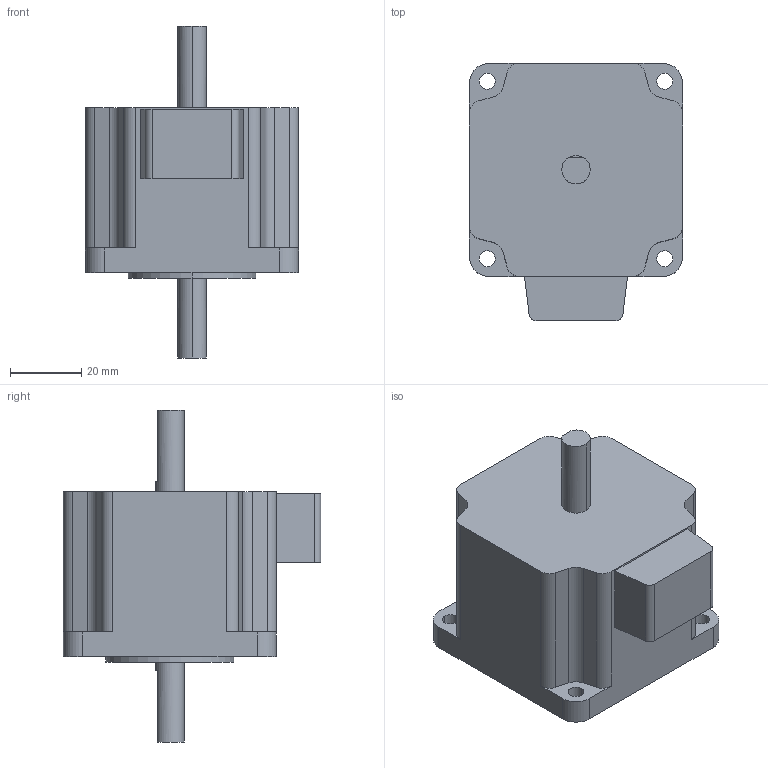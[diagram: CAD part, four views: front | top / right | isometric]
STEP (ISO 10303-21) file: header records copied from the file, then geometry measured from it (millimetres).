
FILE_DESCRIPTION (( 'STEP AP203' ), '1' );
FILE_NAME ('SWP_210315_8133.STEP', '2021-03-15T07:18:08', ( 'Windows ユーザー' ), ( '' ), 'SwSTEP 2.0', 'SolidWorks 2017', '' );
FILE_SCHEMA (( 'CONFIG_CONTROL_DESIGN' ));
Length unit declared in the file: millimetre
Products named in the file (1): SWP_210315_8133
Bounding box: 60 x 72.5 x 93.5 mm (x, y, z)
Volume: 159543.5 mm3; surface area: 20706.1 mm2
Topology: 1 solids, 1 shells, 102 faces, 270 edges, 180 vertices
Faces by surface type: plane 70, cylinder 32
Entity records: 3255 total; most frequent: CARTESIAN_POINT 553, DIRECTION 544, ORIENTED_EDGE 540, EDGE_CURVE 270, LINE 202, VECTOR 202, VERTEX_POINT 180, AXIS2_PLACEMENT_3D 171
